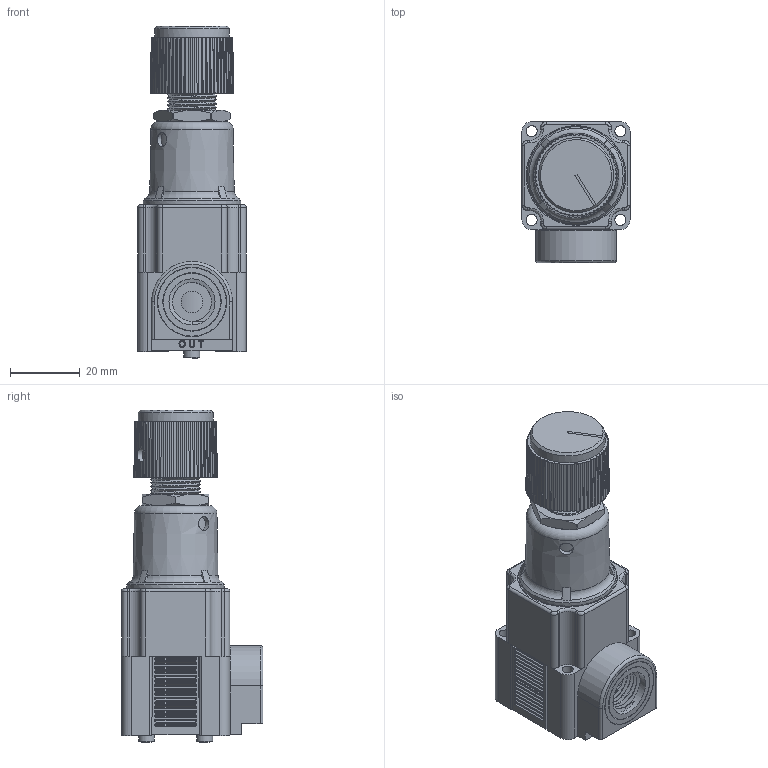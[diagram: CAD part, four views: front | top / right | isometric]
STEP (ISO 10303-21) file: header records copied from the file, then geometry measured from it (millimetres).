
FILE_DESCRIPTION(/* description */ (''),/* implementation_level */ '2;1');
FILE_NAME(/* name */ 'K:\Normteile INVENTOR\Air-Logic\Regulators\R6000\R 6___ 2 1''4-18 NPT Threads Out.igs.ipt.stp',/* time_stamp */ '2020-05-27T10:56:59+02:00',/* author */ ('Paul'),/* organization */ (''),/* preprocessor_version */ 'ST-DEVELOPER v18',/* originating_system */ 'Autodesk Inventor 2020',/* authorisation */ '');
FILE_SCHEMA (('AUTOMOTIVE_DESIGN { 1 0 10303 214 3 1 1 }'));
Length unit declared in the file: inch
Products named in the file (1): R 6___ 2 1'4-18 NPT Threads Out.igs
Bounding box: 31.19 x 40.56 x 95.02 mm (x, y, z)
Volume: 59454.9 mm3; surface area: 18853 mm2
Topology: 1 solids, 1 shells, 1006 faces, 2612 edges, 1685 vertices
Faces by surface type: plane 484, cylinder 362, cone 83, bspline 47, torus 30
Full cylindrical faces by diameter (mm): 1.194 x1, 2.032 x1, 3.124 x2, 3.175 x8, 3.988 x1, 4.064 x1, 4.521 x2, 6.223 x1, 6.248 x1, 8.382 x2, 11.163 x6, 13.208 x6, 16.408 x1, 16.717 x1, 19.406 x1, 19.612 x1, 19.825 x1, 21.476 x1, 27.94 x1, 28.575 x1
Entity records: 38946 total; most frequent: CARTESIAN_POINT 12887, DIRECTION 5368, ORIENTED_EDGE 5224, EDGE_CURVE 2612, AXIS2_PLACEMENT_3D 2066, VERTEX_POINT 1685, LINE 1236, VECTOR 1236
